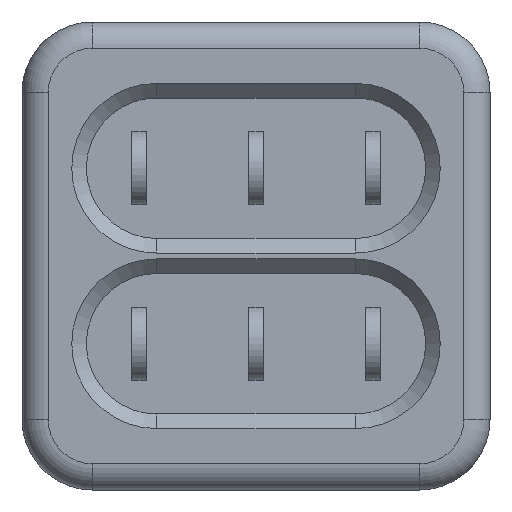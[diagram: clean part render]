
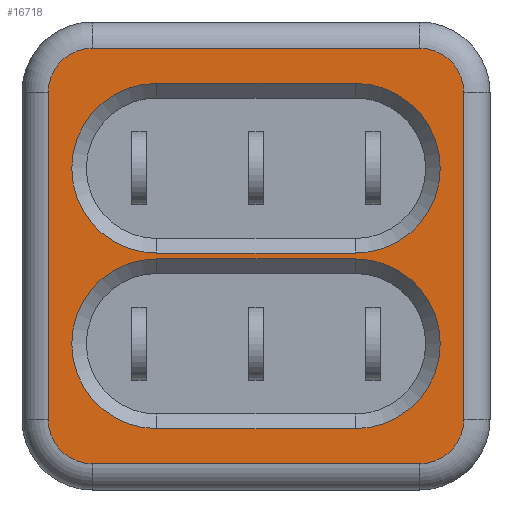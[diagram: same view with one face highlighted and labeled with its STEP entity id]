
A CAD part, front view. The second image highlights one B-rep face of the part: STEP entity #16718.
In plain terms, the highlighted planar face has unit normal (0, -1, 0).
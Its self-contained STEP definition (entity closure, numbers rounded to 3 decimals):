
#4742=CARTESIAN_POINT('',(-5.6,-7.4,5.6));
#4743=DIRECTION('',(0.,-1.,0.));
#4744=DIRECTION('',(0.,0.,1.));
#4745=AXIS2_PLACEMENT_3D('',#4742,#4743,#4744);
#4747=DIRECTION('',(-1.,0.,0.));
#4748=VECTOR('',#4747,11.2);
#4749=CARTESIAN_POINT('',(5.6,-7.4,7.1));
#4750=LINE('',#4749,#4748);
#4751=CARTESIAN_POINT('',(5.6,-7.4,5.6));
#4752=DIRECTION('',(0.,-1.,0.));
#4753=DIRECTION('',(1.,0.,0.));
#4754=AXIS2_PLACEMENT_3D('',#4751,#4752,#4753);
#4756=DIRECTION('',(0.,0.,1.));
#4757=VECTOR('',#4756,11.2);
#4758=CARTESIAN_POINT('',(7.1,-7.4,-5.6));
#4759=LINE('',#4758,#4757);
#4760=CARTESIAN_POINT('',(5.6,-7.4,-5.6));
#4761=DIRECTION('',(0.,-1.,0.));
#4762=DIRECTION('',(0.,0.,-1.));
#4763=AXIS2_PLACEMENT_3D('',#4760,#4761,#4762);
#4765=DIRECTION('',(1.,0.,0.));
#4766=VECTOR('',#4765,11.2);
#4767=CARTESIAN_POINT('',(-5.6,-7.4,-7.1));
#4768=LINE('',#4767,#4766);
#4769=CARTESIAN_POINT('',(-5.6,-7.4,-5.6));
#4770=DIRECTION('',(0.,-1.,0.));
#4771=DIRECTION('',(-1.,0.,0.));
#4772=AXIS2_PLACEMENT_3D('',#4769,#4770,#4771);
#4774=DIRECTION('',(0.,0.,-1.));
#4775=VECTOR('',#4774,11.2);
#4776=CARTESIAN_POINT('',(-7.1,-7.4,5.6));
#4777=LINE('',#4776,#4775);
#4778=DIRECTION('',(-1.,0.,0.));
#4779=VECTOR('',#4778,6.8);
#4780=CARTESIAN_POINT('',(3.4,-7.4,
0.1));
#4781=LINE('',#4780,#4779);
#4782=CARTESIAN_POINT('',(3.4,-7.4,3.));
#4783=DIRECTION('',(0.,1.,0.));
#4784=DIRECTION('',(0.,0.,1.));
#4785=AXIS2_PLACEMENT_3D('',#4782,#4783,#4784);
#4787=DIRECTION('',(1.,0.,0.));
#4788=VECTOR('',#4787,6.8);
#4789=CARTESIAN_POINT('',(-3.4,-7.4,
5.9));
#4790=LINE('',#4789,#4788);
#4791=CARTESIAN_POINT('',(-3.4,-7.4,3.));
#4792=DIRECTION('',(0.,1.,0.));
#4793=DIRECTION('',(0.,0.,-1.));
#4794=AXIS2_PLACEMENT_3D('',#4791,#4792,#4793);
#4796=DIRECTION('',(-1.,0.,0.));
#4797=VECTOR('',#4796,6.8);
#4798=CARTESIAN_POINT('',(3.4,-7.4,
-5.9));
#4799=LINE('',#4798,#4797);
#4800=CARTESIAN_POINT('',(3.4,-7.4,-3.));
#4801=DIRECTION('',(0.,1.,0.));
#4802=DIRECTION('',(0.,0.,1.));
#4803=AXIS2_PLACEMENT_3D('',#4800,#4801,#4802);
#4805=DIRECTION('',(1.,0.,0.));
#4806=VECTOR('',#4805,6.8);
#4807=CARTESIAN_POINT('',(-3.4,-7.4,
-0.1));
#4808=LINE('',#4807,#4806);
#4809=CARTESIAN_POINT('',(-3.4,-7.4,-3.));
#4810=DIRECTION('',(0.,1.,0.));
#4811=DIRECTION('',(0.,0.,-1.));
#4812=AXIS2_PLACEMENT_3D('',#4809,#4810,#4811);
#10650=CARTESIAN_POINT('',(-5.6,-7.4,7.1));
#10651=CARTESIAN_POINT('',(-7.1,-7.4,5.6));
#10652=VERTEX_POINT('',#10650);
#10653=VERTEX_POINT('',#10651);
#10658=CARTESIAN_POINT('',(-7.1,-7.4,-5.6));
#10659=VERTEX_POINT('',#10658);
#10662=CARTESIAN_POINT('',(-5.6,-7.4,-7.1));
#10663=VERTEX_POINT('',#10662);
#10666=CARTESIAN_POINT('',(5.6,-7.4,-7.1));
#10667=VERTEX_POINT('',#10666);
#10670=CARTESIAN_POINT('',(7.1,-7.4,-5.6));
#10671=VERTEX_POINT('',#10670);
#10674=CARTESIAN_POINT('',(7.1,-7.4,5.6));
#10675=VERTEX_POINT('',#10674);
#10678=CARTESIAN_POINT('',(5.6,-7.4,7.1));
#10679=VERTEX_POINT('',#10678);
#10714=CARTESIAN_POINT('',(3.4,-7.4,
0.1));
#10715=CARTESIAN_POINT('',(-3.4,-7.4,
0.1));
#10716=VERTEX_POINT('',#10714);
#10717=VERTEX_POINT('',#10715);
#10718=CARTESIAN_POINT('',(-3.4,-7.4,5.9));
#10719=VERTEX_POINT('',#10718);
#10720=CARTESIAN_POINT('',(3.4,-7.4,
5.9));
#10721=VERTEX_POINT('',#10720);
#10722=CARTESIAN_POINT('',(3.4,-7.4,
-5.9));
#10723=CARTESIAN_POINT('',(-3.4,-7.4,
-5.9));
#10724=VERTEX_POINT('',#10722);
#10725=VERTEX_POINT('',#10723);
#10726=CARTESIAN_POINT('',(-3.4,-7.4,-0.1));
#10727=VERTEX_POINT('',#10726);
#10728=CARTESIAN_POINT('',(3.4,-7.4,
-0.1));
#10729=VERTEX_POINT('',#10728);
#16676=CARTESIAN_POINT('',(0.,-7.4,0.));
#16677=DIRECTION('',(0.,-1.,0.));
#16678=DIRECTION('',(1.,0.,0.));
#16679=AXIS2_PLACEMENT_3D('',#16676,#16677,#16678);
#16680=PLANE('',#16679);
#16682=ORIENTED_EDGE('',*,*,#16681,.F.);
#16684=ORIENTED_EDGE('',*,*,#16683,.F.);
#16686=ORIENTED_EDGE('',*,*,#16685,.F.);
#16688=ORIENTED_EDGE('',*,*,#16687,.F.);
#16689=ORIENTED_EDGE('',*,*,#16666,.F.);
#16691=ORIENTED_EDGE('',*,*,#16690,.F.);
#16693=ORIENTED_EDGE('',*,*,#16692,.F.);
#16695=ORIENTED_EDGE('',*,*,#16694,.F.);
#16696=EDGE_LOOP('',(#16682,#16684,#16686,#16688,#16689,#16691,#16693,#16695));
#16697=FACE_OUTER_BOUND('',#16696,.F.);
#16699=ORIENTED_EDGE('',*,*,#16698,.F.);
#16701=ORIENTED_EDGE('',*,*,#16700,.F.);
#16703=ORIENTED_EDGE('',*,*,#16702,.F.);
#16705=ORIENTED_EDGE('',*,*,#16704,.F.);
#16706=EDGE_LOOP('',(#16699,#16701,#16703,#16705));
#16707=FACE_BOUND('',#16706,.F.);
#16709=ORIENTED_EDGE('',*,*,#16708,.F.);
#16711=ORIENTED_EDGE('',*,*,#16710,.F.);
#16713=ORIENTED_EDGE('',*,*,#16712,.F.);
#16715=ORIENTED_EDGE('',*,*,#16714,.F.);
#16716=EDGE_LOOP('',(#16709,#16711,#16713,#16715));
#16717=FACE_BOUND('',#16716,.F.);
#16718=ADVANCED_FACE('',(#16697,#16707,#16717),#16680,.T.);
#4746=CIRCLE('',#4745,1.5);
#4755=CIRCLE('',#4754,1.5);
#4764=CIRCLE('',#4763,1.5);
#4773=CIRCLE('',#4772,1.5);
#4786=CIRCLE('',#4785,2.9);
#4795=CIRCLE('',#4794,2.9);
#4804=CIRCLE('',#4803,2.9);
#4813=CIRCLE('',#4812,2.9);
#16666=EDGE_CURVE('',#10667,#10671,#4764,.T.);
#16681=EDGE_CURVE('',#10652,#10653,#4746,.T.);
#16683=EDGE_CURVE('',#10679,#10652,#4750,.T.);
#16685=EDGE_CURVE('',#10675,#10679,#4755,.T.);
#16687=EDGE_CURVE('',#10671,#10675,#4759,.T.);
#16690=EDGE_CURVE('',#10663,#10667,#4768,.T.);
#16692=EDGE_CURVE('',#10659,#10663,#4773,.T.);
#16694=EDGE_CURVE('',#10653,#10659,#4777,.T.);
#16698=EDGE_CURVE('',#10716,#10717,#4781,.T.);
#16700=EDGE_CURVE('',#10721,#10716,#4786,.T.);
#16702=EDGE_CURVE('',#10719,#10721,#4790,.T.);
#16704=EDGE_CURVE('',#10717,#10719,#4795,.T.);
#16708=EDGE_CURVE('',#10724,#10725,#4799,.T.);
#16710=EDGE_CURVE('',#10729,#10724,#4804,.T.);
#16712=EDGE_CURVE('',#10727,#10729,#4808,.T.);
#16714=EDGE_CURVE('',#10725,#10727,#4813,.T.);
